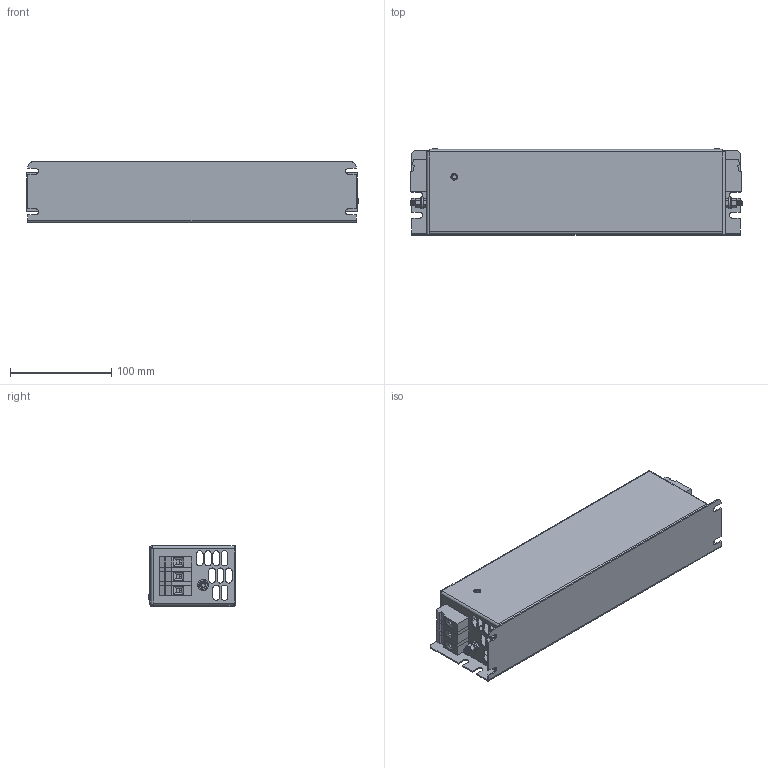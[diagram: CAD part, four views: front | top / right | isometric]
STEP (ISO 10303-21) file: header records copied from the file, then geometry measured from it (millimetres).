
FILE_DESCRIPTION (( 'STEP AP203' ), '1' );
FILE_NAME ('NF-KC-DAR2-16-3.STEP', '2025-09-25T14:30:25', ( '' ), ( '' ), 'SwSTEP 2.0', 'SolidWorks 2017', '' );
FILE_SCHEMA (( 'CONFIG_CONTROL_DESIGN' ));
Length unit declared in the file: millimetre
Products named in the file (12): NF-KC-DAR2-16 lid; hex nut style 1_am_B18.2.4.1M - Hex nut, Style 1,  M5 x 0.8 --D-N; VDFK6x3 with spacer; M5x13 Earth post; hex screw_am (dont use)_B18.6.7M - M5 x 0.8 x 13 Indented HHMS --13S; flat washer narrow_am_B18.22M - Plain washer, 5 mm, narrow; M4 Hank; NF-KC-DAR2-16 case; 3.5mm Rivet; NF-KC-DAR2-16-3; VDFK-6 spacer; VDFK-6
Assembly tree (18 placements, depth 3):
  NF-KC-DAR2-16-3
    NF-KC-DAR2-16 case
    NF-KC-DAR2-16 lid
    M5x13 Earth post  x2
      hex screw_am (dont use)_B18.6.7M - M5 x 0.8 x 13 Indented HHMS --13S
      flat washer narrow_am_B18.22M - Plain washer, 5 mm, narrow
      hex nut style 1_am_B18.2.4.1M - Hex nut, Style 1,  M5 x 0.8 --D-N
    3.5mm Rivet  x2
    M4 Hank
    VDFK6x3 with spacer  x2
      VDFK-6 spacer
      VDFK-6
Bounding box: 328.6 x 86 x 60.3 mm (x, y, z)
Volume: 158651.7 mm3; surface area: 229702.7 mm2
Topology: 23 solids, 23 shells, 1143 faces, 2926 edges, 1860 vertices
Faces by surface type: plane 591, cylinder 362, cone 186, torus 4
Entity records: 22499 total; most frequent: DIRECTION 3767, CARTESIAN_POINT 3723, ORIENTED_EDGE 3518, EDGE_CURVE 1759, AXIS2_PLACEMENT_3D 1358, VERTEX_POINT 1122, LINE 1051, VECTOR 1051
